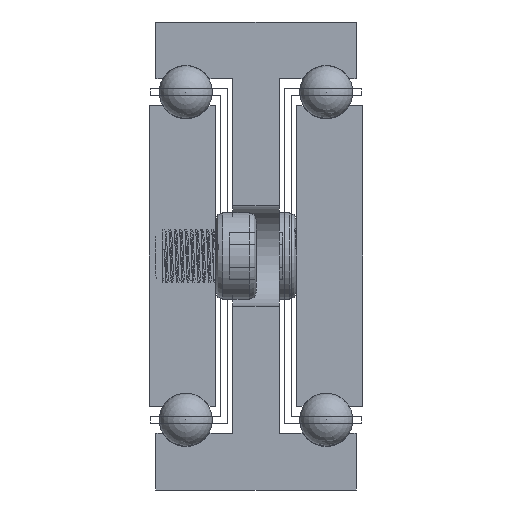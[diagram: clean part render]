
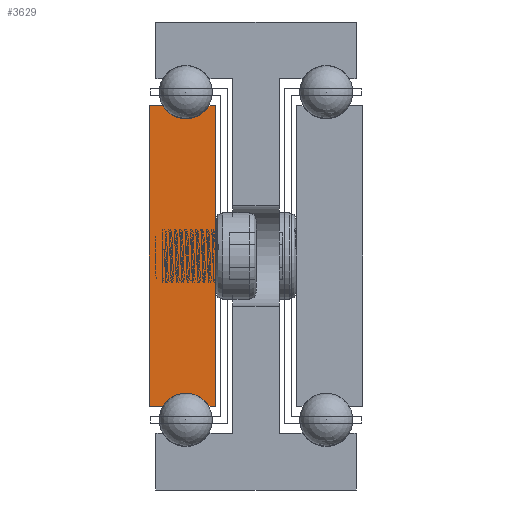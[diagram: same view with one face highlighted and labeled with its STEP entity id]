
A CAD part, front view. The second image highlights one B-rep face of the part: STEP entity #3629.
In plain terms, the highlighted planar face has unit normal (0, -1, 0).
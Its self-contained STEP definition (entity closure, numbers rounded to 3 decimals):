
#475=CIRCLE('',#3912,4.);
#477=CIRCLE('',#3918,4.);
#779=FACE_OUTER_BOUND('',#1005,.T.);
#1005=EDGE_LOOP('',(#2924,#2925,#2926,#2927,#2928,#2929,#2930,#2931));
#1378=LINE('',#5596,#1590);
#1381=LINE('',#5602,#1593);
#1385=LINE('',#5614,#1597);
#1388=LINE('',#5620,#1600);
#1391=LINE('',#5626,#1603);
#1395=LINE('',#5636,#1607);
#1590=VECTOR('',#4502,1.);
#1593=VECTOR('',#4507,1.);
#1597=VECTOR('',#4519,1.);
#1600=VECTOR('',#4524,1.);
#1603=VECTOR('',#4529,1.);
#1607=VECTOR('',#4541,1.);
#1810=VERTEX_POINT('',#5593);
#1811=VERTEX_POINT('',#5595);
#1813=VERTEX_POINT('',#5601);
#1815=VERTEX_POINT('',#5607);
#1817=VERTEX_POINT('',#5613);
#1819=VERTEX_POINT('',#5619);
#1821=VERTEX_POINT('',#5625);
#1823=VERTEX_POINT('',#5631);
#2292=EDGE_CURVE('',#1811,#1810,#1378,.T.);
#2295=EDGE_CURVE('',#1813,#1811,#1381,.T.);
#2298=EDGE_CURVE('',#1815,#1813,#475,.T.);
#2301=EDGE_CURVE('',#1817,#1815,#1385,.T.);
#2304=EDGE_CURVE('',#1819,#1817,#1388,.T.);
#2307=EDGE_CURVE('',#1821,#1819,#1391,.T.);
#2310=EDGE_CURVE('',#1823,#1821,#477,.T.);
#2313=EDGE_CURVE('',#1810,#1823,#1395,.T.);
#2924=ORIENTED_EDGE('',*,*,#2313,.T.);
#2925=ORIENTED_EDGE('',*,*,#2310,.T.);
#2926=ORIENTED_EDGE('',*,*,#2307,.T.);
#2927=ORIENTED_EDGE('',*,*,#2304,.T.);
#2928=ORIENTED_EDGE('',*,*,#2301,.T.);
#2929=ORIENTED_EDGE('',*,*,#2298,.T.);
#2930=ORIENTED_EDGE('',*,*,#2295,.T.);
#2931=ORIENTED_EDGE('',*,*,#2292,.T.);
#3527=PLANE('',#3921);
#3629=ADVANCED_FACE('',(#779),#3527,.T.);
#3912=AXIS2_PLACEMENT_3D('',#5608,#4513,#4514);
#3918=AXIS2_PLACEMENT_3D('',#5632,#4535,#4536);
#3921=AXIS2_PLACEMENT_3D('',#5638,#4544,#4545);
#4502=DIRECTION('',(0.,0.,-1.));
#4507=DIRECTION('',(-1.,0.,0.));
#4513=DIRECTION('center_axis',(0.,1.,0.));
#4514=DIRECTION('ref_axis',(-0.866,0.,-0.5));
#4519=DIRECTION('',(-1.,0.,0.));
#4524=DIRECTION('',(0.,0.,1.));
#4529=DIRECTION('',(1.,0.,0.));
#4535=DIRECTION('center_axis',(0.,1.,0.));
#4536=DIRECTION('ref_axis',(0.866,0.,0.5));
#4541=DIRECTION('',(1.,0.,0.));
#4544=DIRECTION('center_axis',(0.,-1.,0.));
#4545=DIRECTION('ref_axis',(1.,0.,0.));
#5593=CARTESIAN_POINT('',(-3175.715,-861.52,777.5));
#5595=CARTESIAN_POINT('',(-3175.715,-861.52,822.5));
#5596=CARTESIAN_POINT('',(-3175.715,-861.52,777.5));
#5601=CARTESIAN_POINT('',(-3173.679,-861.52,822.5));
#5602=CARTESIAN_POINT('',(-3175.715,-861.52,822.5));
#5607=CARTESIAN_POINT('',(-3166.75,-861.52,822.5));
#5608=CARTESIAN_POINT('Origin',(-3170.215,-861.52,824.5));
#5613=CARTESIAN_POINT('',(-3165.715,-861.52,822.5));
#5614=CARTESIAN_POINT('',(-3166.75,-861.52,822.5));
#5619=CARTESIAN_POINT('',(-3165.715,-861.52,777.5));
#5620=CARTESIAN_POINT('',(-3165.715,-861.52,822.5));
#5625=CARTESIAN_POINT('',(-3166.75,-861.52,777.5));
#5626=CARTESIAN_POINT('',(-3165.715,-861.52,777.5));
#5631=CARTESIAN_POINT('',(-3173.679,-861.52,777.5));
#5632=CARTESIAN_POINT('Origin',(-3170.215,-861.52,775.5));
#5636=CARTESIAN_POINT('',(-3173.679,-861.52,777.5));
#5638=CARTESIAN_POINT('Origin',(-3170.72,-861.52,800.));
